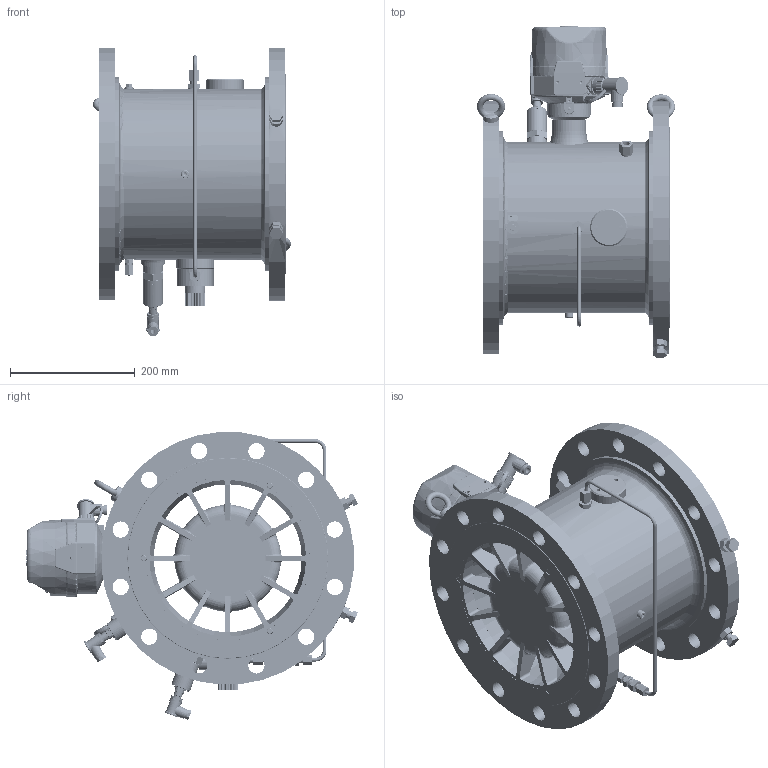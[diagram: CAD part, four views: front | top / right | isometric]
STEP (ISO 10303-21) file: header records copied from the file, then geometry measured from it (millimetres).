
FILE_DESCRIPTION((''),'2;1');
FILE_NAME('TRZ03-K_DN250_PN10_R_ASM','2025-12-08T15:21:41',('R74497'),(''),'CREO PARAMETRIC BY PTC INC, 2024273','CREO PARAMETRIC BY PTC INC, 2024273','');
FILE_SCHEMA(('CONFIG_CONTROL_DESIGN','SHAPE_APPEARANCE_LAYERS_GROUPS'));
Length unit declared in the file: millimetre
Products named in the file (91): TRZ03-K_DN250_PN10_ROHR_ROH_AF0; TRZ03-K_DN250_PN10_FLANSCH_ROH_AF1; TRZ03-K_DN250_PN10_FLANSCH_ROH_AF0; 062903_4_V00_AF0; 056772_4_AF0; 056772_4; TRZ03-K_DN250_PN10_RUNDNAHT_1_AF0; TRZ03-K_DN250_PN10_RUNDNAHT_2_AF1; TRZ03-K_DN250_PN10_NAHT_ZW_AF0; 063674_4_AF0; 063674_4_AF1; TRZ03-K_DN250_PN10_NAHT_HF3_1_AF0; 933M12X35; 934M12; TRZ03-K_DN250_PN10_NAHT_HF3_2_AF1; TRZ03-K_DN250_PN10_FERTIG_ASM; 062953_4; 1M6X20; O-RING_52X2_5; GEHAEUSE_TRZ03_ZWF_PED-2012; 054578_2; 965M3X6; STECKER_WINKEL_ZWF_PED-2012; STECKVERBINDER_ZWF_PED-2012; AM3X10_DIN404_ZWF_PED-2012; 84M3X8; STECKER_FA_BINDER_ZWF_PED-2012_ASM; LASCHE_ZWF_PED-2012; KERBNAGEL_ZWF_PED-2012; PLEXIGLASSCHEIBE_ZWF_PED-2012; SCHILD_SCHRAEG_ZWF_PED-2012; 551M6X10; 055027_4I; RADIALKUGELLAGER_3X7X3; 055027_4C; 055027_4F; KNEBELKERBSTIFT_2_L30; 055027_4A; 055027_4D; 055027_4B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
Assembly tree (120 placements, depth 5):
  TRZ03-K_DN250_PN10_R_ASM
    TRZ03-K_DN250_PN10_FERTIG_ASM
      TRZ03-K_DN250_PN10_ROHR_ROH_AF0
      TRZ03-K_DN250_PN10_FLANSCH_ROH_AF1
      TRZ03-K_DN250_PN10_FLANSCH_ROH_AF0
      062903_4_V00_AF0
      056772_4_AF0
      056772_4
      TRZ03-K_DN250_PN10_RUNDNAHT_1_AF0
      TRZ03-K_DN250_PN10_RUNDNAHT_2_AF1
      TRZ03-K_DN250_PN10_NAHT_ZW_AF0
      063674_4_AF0
      063674_4_AF1
      TRZ03-K_DN250_PN10_NAHT_HF3_1_AF0
      933M12X35  x2
      934M12  x2
      TRZ03-K_DN250_PN10_NAHT_HF3_2_AF1
    BAUGRUPPE_ZWF_PED-2012_VEREINF_ASM
      062953_4
      1M6X20  x6
      O-RING_52X2_5
      GEHAEUSE_TRZ03_ZWF_PED-2012
      054578_2
      965M3X6  x2
      STECKER_FA_BINDER_ZWF_PED-2012_ASM
        STECKER_WINKEL_ZWF_PED-2012
        STECKVERBINDER_ZWF_PED-2012
        AM3X10_DIN404_ZWF_PED-2012
        84M3X8
      LASCHE_ZWF_PED-2012
      KERBNAGEL_ZWF_PED-2012  x5
      PLEXIGLASSCHEIBE_ZWF_PED-2012
      SCHILD_SCHRAEG_ZWF_PED-2012
      551M6X10  x3
      063240_4_ASM
        055027_4I
        RADIALKUGELLAGER_3X7X3  x4
        055027_4C
        055027_4F
        KNEBELKERBSTIFT_2_L30  x2
        055027_4A
        055027_4D
        055027_4B
        055027_4E
        051409_4
        055027_4G
    DICHTRING_G1_4ZOLL  x3
    054365_4  x2
    063969_4_ASM
      VERSCHR_G1_4_ERMETO_GE06SRCF
      063635_4_DN200_TERZ
    DICHTRING_G1_8ZOLL  x2
    VERSCHR_G1_8_ERMETO_GE06PLRG
    PR_KUGEL_TRZ
    VERSCHLUSSSCHRAUBE_G1_8_DIN910
    PUMPE_SN_90_59_266_00_ASM
      MITTELTEIL_SN_90_59_266_00
      BEHAELTER_SN_90_59_266_00
      VERSCHRAUBUNG__SN_90_59_266_00
    1M8X25  x2
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Bounding box: 316.97 x 531.19 x 461 mm (x, y, z)
Volume: 8040440.8 mm3; surface area: 1735293.9 mm2
Topology: 123 solids, 168 shells, 4447 faces, 10859 edges, 6754 vertices
Faces by surface type: plane 1798, cylinder 1393, cone 477, torus 362, bspline 267, extrusion 106, sphere 44
Entity records: 129255 total; most frequent: CARTESIAN_POINT 41869, DIRECTION 16785, ORIENTED_EDGE 16124, EDGE_CURVE 8125, AXIS2_PLACEMENT_3D 6532, VERTEX_POINT 5180, EDGE_LOOP 3795, VECTOR 3721
